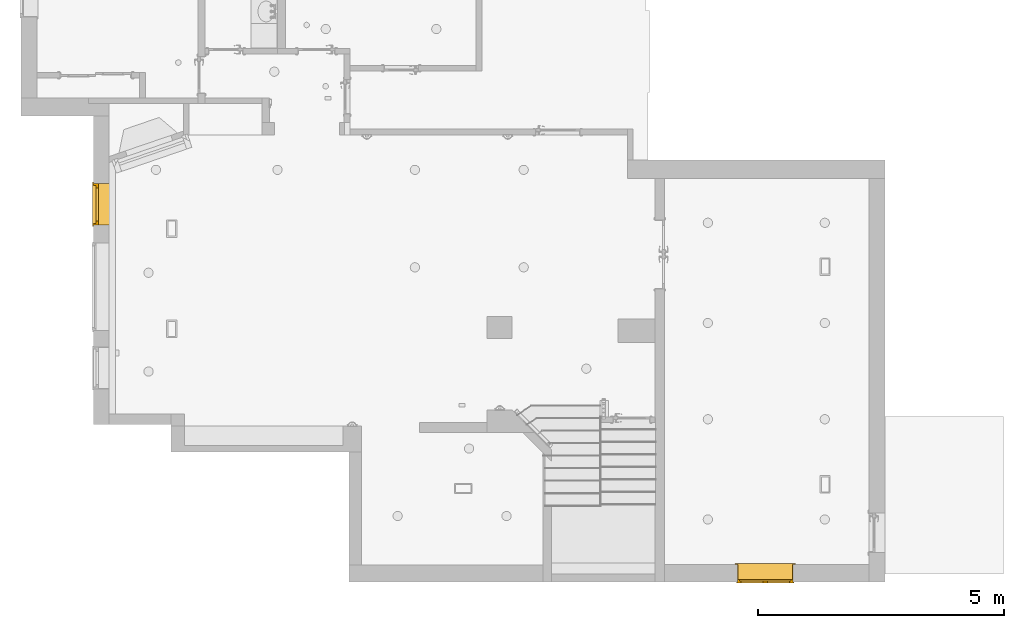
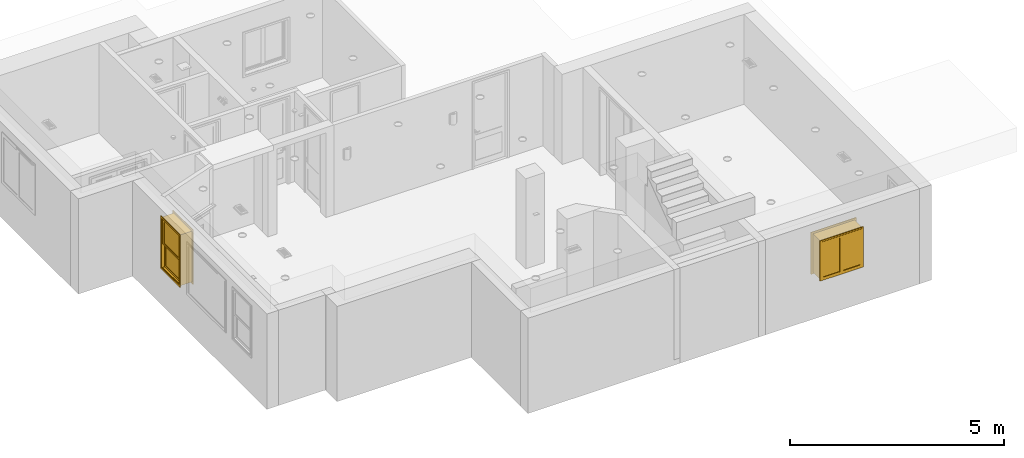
# One storey, part 11 of 24: 2 windows.
"""IFC2X3 building model written with IfcOpenShell, lengths in inches."""

from ifc_helpers import new_model, entity, si_unit, converted_unit, derived_unit, money_unit, direction, frame, origin_with_axes, place, context, subcontext, project, spatial, open_shell, faceted_brep, surface_model, type_object, element, save


model = new_model("IFC2X3")

# Units and contexts
model_context = context("Model", 3, precision=0.000393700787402, world=origin_with_axes(), true_north=direction((0.0, 1.0)))
body_context = subcontext(model_context, "Body", "Model", "MODEL_VIEW")
ifc_project = project(units=[converted_unit("LENGTHUNIT", "INCH", entity("IfcPositiveLengthMeasure", 0.0254), si_unit("LENGTHUNIT", "METRE"), dimensions=[1, 0, 0, 0, 0, 0, 0]), converted_unit("AREAUNIT", "SQUARE_FOOT", entity("IfcPositiveLengthMeasure", 0.09290304), si_unit("AREAUNIT", "SQUARE_METRE"), dimensions=[2, 0, 0, 0, 0, 0, 0]), si_unit("PLANEANGLEUNIT", "RADIAN"), si_unit("SOLIDANGLEUNIT", "STERADIAN"), money_unit("USD"), converted_unit("TIMEUNIT", "Year", entity("IfcTimeMeasure", 31556926.0), si_unit("TIMEUNIT", "SECOND"), dimensions=[0, 0, 1, 0, 0, 0, 0]), si_unit("MASSUNIT", "GRAM", prefix="KILO"), si_unit("THERMODYNAMICTEMPERATUREUNIT", "DEGREE_CELSIUS"), si_unit("LUMINOUSINTENSITYUNIT", "LUMEN"), si_unit("ENERGYUNIT", "JOULE", prefix="MEGA"), derived_unit("THERMALCONDUCTANCEUNIT", [(si_unit("POWERUNIT", "WATT"), 1), (si_unit("LENGTHUNIT", "METRE"), -1), (si_unit("THERMODYNAMICTEMPERATUREUNIT", "KELVIN"), -1)]), derived_unit("SPECIFICHEATCAPACITYUNIT", [(si_unit("ENERGYUNIT", "JOULE"), 1), (si_unit("MASSUNIT", "GRAM", prefix="KILO"), -1), (si_unit("THERMODYNAMICTEMPERATUREUNIT", "KELVIN"), -1)]), derived_unit("MASSDENSITYUNIT", [(si_unit("MASSUNIT", "GRAM", prefix="KILO"), 1), (si_unit("VOLUMEUNIT", "CUBIC_METRE"), -1)])], contexts=[model_context])

# Site, building, storey
site_placement = place(None, origin_with_axes())
site = spatial("IfcSite", under=ifc_project, at=site_placement, Name="Site", CompositionType="ELEMENT")
building_placement = place(site_placement, origin_with_axes())
building = spatial("IfcBuilding", under=site, at=building_placement, Name="Building", CompositionType="ELEMENT")
storey_placement = place(building_placement, origin_with_axes())
storey = spatial("IfcBuildingStorey", under=building, at=storey_placement, Name="First Floor", CompositionType="ELEMENT", Elevation=0.0)

# Windows
window_style_1 = type_object("IfcWindowStyle", Name="Double-Hung Window 25", ConstructionType="NOTDEFINED", OperationType="DOUBLE_PANEL_HORIZONTAL", ParameterTakesPrecedence=False, Sizeable=False)
window_1_placement = place(storey_placement, frame((290.433078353, 331.644674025, 36.0236220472), z_axis=(0.0, 0.0, 1.0), x_axis=(-9.94012117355e-06, -0.999999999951, 0.0)))
element("IfcWindow", 1, at=window_1_placement, inside=storey, type_object=window_style_1, Name="W-01", OverallHeight=57.0866, OverallWidth=33.4646, context=body_context, shape_type="SurfaceModel", body=[
    faceted_brep([(33.4645669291, -8.66141732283, 0.0), (0.0, -8.66141732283, 0.0), (0.0, 0.0, 0.0), (33.4645669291, 0.0, 0.0), (33.4645669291, -8.66141732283, 57.0866141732), (0.0, -8.66141732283, 57.0866141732), (33.2677165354, -8.66141732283, 0.196850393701), (0.196850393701, -8.66141732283, 0.196850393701), (0.196850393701, -8.66141732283, 56.8897637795), (33.2677165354, -8.66141732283, 56.8897637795), (0.0, 0.0, 57.0866141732), (33.4645669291, 0.0, 57.0866141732), (33.2677165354, 0.0, 0.196850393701), (33.2677165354, 0.0, 56.8897637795), (0.196850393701, 0.0, 56.8897637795), (0.196850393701, 0.0, 0.196850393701)], [[[0, 1, 2, 3]], [[0, 4, 5, 1], [6, 7, 8, 9]], [[1, 5, 10, 2]], [[3, 2, 10, 11], [12, 13, 14, 15]], [[4, 0, 3, 11]], [[5, 4, 11, 10]], [[7, 6, 12, 15]], [[8, 7, 15, 14]], [[9, 8, 14, 13]], [[6, 9, 13, 12]]]),
    faceted_brep([(35.4330708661, 0.787401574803, -1.96850393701), (35.4330708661, 0.0, -1.96850393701), (33.4645669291, 0.0, 0.0), (33.4645669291, 0.787401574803, 0.0), (35.4330708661, 0.787401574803, 59.0551181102), (35.4330708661, 0.0, 59.0551181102), (33.4645669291, 0.0, 57.0866141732), (33.4645669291, 0.787401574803, 57.0866141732)], [[[0, 1, 2, 3]], [[4, 5, 1, 0]], [[1, 5, 6, 2]], [[3, 2, 6, 7]], [[0, 3, 7, 4]], [[7, 6, 5, 4]]]),
    faceted_brep([(-1.96850393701, 0.787401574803, 59.0551181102), (-1.96850393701, 0.0, 59.0551181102), (0.0, 0.0, 57.0866141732), (0.0, 0.787401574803, 57.0866141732), (-1.96850393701, 0.787401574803, -1.96850393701), (-1.96850393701, 0.0, -1.96850393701), (0.0, 0.0, 0.0), (0.0, 0.787401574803, 0.0)], [[[0, 1, 2, 3]], [[4, 5, 1, 0]], [[1, 5, 6, 2]], [[3, 2, 6, 7]], [[0, 3, 7, 4]], [[7, 6, 5, 4]]]),
    faceted_brep([(-1.96850393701, 0.787401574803, -1.96850393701), (-1.96850393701, 0.0, -1.96850393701), (0.0, 0.0, 0.0), (0.0, 0.787401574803, 0.0), (35.4330708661, 0.787401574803, -1.96850393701), (35.4330708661, 0.0, -1.96850393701), (33.4645669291, 0.0, 0.0), (33.4645669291, 0.787401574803, 0.0)], [[[0, 1, 2, 3]], [[4, 5, 1, 0]], [[1, 5, 6, 2]], [[3, 2, 6, 7]], [[0, 3, 7, 4]], [[7, 6, 5, 4]]]),
    faceted_brep([(35.4330708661, 0.787401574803, 59.0551181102), (35.4330708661, 0.0, 59.0551181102), (33.4645669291, 0.0, 57.0866141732), (33.4645669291, 0.787401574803, 57.0866141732), (-1.96850393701, 0.787401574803, 59.0551181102), (-1.96850393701, 0.0, 59.0551181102), (0.0, 0.0, 57.0866141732), (0.0, 0.787401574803, 57.0866141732)], [[[0, 1, 2, 3]], [[4, 5, 1, 0]], [[1, 5, 6, 2]], [[3, 2, 6, 7]], [[0, 3, 7, 4]], [[7, 6, 5, 4]]]),
    faceted_brep([(34.4488188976, -13.3858267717, -0.984251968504), (32.4803149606, -13.3858267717, 0.984251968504), (32.4803149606, -12.5984251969, 0.984251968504), (34.4488188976, -12.5984251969, -0.984251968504), (34.4488188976, -13.3858267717, 58.0708661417), (32.4803149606, -13.3858267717, 56.1023622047), (32.4803149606, -12.5984251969, 56.1023622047), (34.4488188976, -12.5984251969, 58.0708661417)], [[[0, 1, 2, 3]], [[0, 4, 5, 1]], [[1, 5, 6, 2]], [[3, 2, 6, 7]], [[4, 0, 3, 7]], [[5, 4, 7, 6]]]),
    faceted_brep([(-0.984251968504, -13.3858267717, 58.0708661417), (0.984251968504, -13.3858267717, 56.1023622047), (0.984251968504, -12.5984251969, 56.1023622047), (-0.984251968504, -12.5984251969, 58.0708661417), (-0.984251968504, -13.3858267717, -0.984251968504), (0.984251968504, -13.3858267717, 0.984251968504), (0.984251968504, -12.5984251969, 0.984251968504), (-0.984251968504, -12.5984251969, -0.984251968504)], [[[0, 1, 2, 3]], [[0, 4, 5, 1]], [[1, 5, 6, 2]], [[3, 2, 6, 7]], [[4, 0, 3, 7]], [[5, 4, 7, 6]]]),
    faceted_brep([(-0.984251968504, -13.3858267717, -0.984251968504), (0.984251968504, -13.3858267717, 0.984251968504), (0.984251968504, -12.5984251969, 0.984251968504), (-0.984251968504, -12.5984251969, -0.984251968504), (34.4488188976, -13.3858267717, -0.984251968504), (32.4803149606, -13.3858267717, 0.984251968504), (32.4803149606, -12.5984251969, 0.984251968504), (34.4488188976, -12.5984251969, -0.984251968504)], [[[0, 1, 2, 3]], [[0, 4, 5, 1]], [[1, 5, 6, 2]], [[3, 2, 6, 7]], [[4, 0, 3, 7]], [[5, 4, 7, 6]]]),
    faceted_brep([(34.4488188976, -13.3858267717, 58.0708661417), (32.4803149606, -13.3858267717, 56.1023622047), (32.4803149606, -12.5984251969, 56.1023622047), (34.4488188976, -12.5984251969, 58.0708661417), (-0.984251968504, -13.3858267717, 58.0708661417), (0.984251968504, -13.3858267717, 56.1023622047), (0.984251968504, -12.5984251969, 56.1023622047), (-0.984251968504, -12.5984251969, 58.0708661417)], [[[0, 1, 2, 3]], [[0, 4, 5, 1]], [[1, 5, 6, 2]], [[3, 2, 6, 7]], [[4, 0, 3, 7]], [[5, 4, 7, 6]]]),
    faceted_brep([(31.8897637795, -12.5984251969, 55.5118110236), (33.4645669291, -12.5984251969, 55.5118110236), (33.4645669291, -8.66141732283, 55.5118110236), (31.8897637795, -8.66141732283, 55.5118110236), (31.8897637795, -12.5984251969, 1.57480314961), (33.4645669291, -12.5984251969, 1.57480314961), (33.4645669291, -8.66141732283, 1.57480314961), (31.8897637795, -8.66141732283, 1.57480314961)], [[[0, 1, 2, 3]], [[0, 4, 5, 1]], [[1, 5, 6, 2]], [[3, 2, 6, 7]], [[4, 0, 3, 7]], [[5, 4, 7, 6]]]),
    faceted_brep([(1.57480314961, -12.5984251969, 1.57480314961), (0.0, -12.5984251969, 1.57480314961), (0.0, -8.66141732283, 1.57480314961), (1.57480314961, -8.66141732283, 1.57480314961), (1.57480314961, -12.5984251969, 55.5118110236), (0.0, -12.5984251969, 55.5118110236), (0.0, -8.66141732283, 55.5118110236), (1.57480314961, -8.66141732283, 55.5118110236)], [[[0, 1, 2, 3]], [[0, 4, 5, 1]], [[1, 5, 6, 2]], [[3, 2, 6, 7]], [[4, 0, 3, 7]], [[5, 4, 7, 6]]]),
    faceted_brep([(31.8897637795, -12.5984251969, 1.57480314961), (33.4645669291, -12.5984251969, 1.57480314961), (33.4645669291, -8.66141732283, 1.57480314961), (31.8897637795, -8.66141732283, 1.57480314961), (1.57480314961, -12.5984251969, 1.57480314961), (0.0, -12.5984251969, 1.57480314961), (0.0, -12.5984251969, 0.0), (33.4645669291, -12.5984251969, 0.0), (33.4645669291, -8.66141732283, 0.0), (0.0, -8.66141732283, 0.0), (0.0, -8.66141732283, 1.57480314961), (1.57480314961, -8.66141732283, 1.57480314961)], [[[0, 1, 2, 3]], [[0, 4, 5, 6, 7, 1]], [[1, 7, 8, 2]], [[3, 2, 8, 9, 10, 11]], [[4, 0, 3, 11]], [[5, 4, 11, 10]], [[6, 5, 10, 9]], [[7, 6, 9, 8]]]),
    faceted_brep([(1.57480314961, -12.5984251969, 55.5118110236), (0.0, -12.5984251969, 55.5118110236), (0.0, -8.66141732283, 55.5118110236), (1.57480314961, -8.66141732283, 55.5118110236), (31.8897637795, -12.5984251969, 55.5118110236), (33.4645669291, -12.5984251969, 55.5118110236), (33.4645669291, -12.5984251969, 57.0866141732), (0.0, -12.5984251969, 57.0866141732), (0.0, -8.66141732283, 57.0866141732), (33.4645669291, -8.66141732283, 57.0866141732), (33.4645669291, -8.66141732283, 55.5118110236), (31.8897637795, -8.66141732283, 55.5118110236)], [[[0, 1, 2, 3]], [[0, 4, 5, 6, 7, 1]], [[1, 7, 8, 2]], [[3, 2, 8, 9, 10, 11]], [[4, 0, 3, 11]], [[5, 4, 11, 10]], [[6, 5, 10, 9]], [[7, 6, 9, 8]]]),
    faceted_brep([(29.9212598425, -10.6299212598, 27.5590551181), (31.8897637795, -10.6299212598, 27.5590551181), (31.8897637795, -8.66141732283, 27.5590551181), (29.9212598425, -8.66141732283, 27.5590551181), (29.9212598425, -10.6299212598, 3.54330708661), (31.8897637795, -10.6299212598, 3.54330708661), (31.8897637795, -8.66141732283, 3.54330708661), (29.9212598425, -8.66141732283, 3.54330708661)], [[[0, 1, 2, 3]], [[0, 4, 5, 1]], [[1, 5, 6, 2]], [[3, 2, 6, 7]], [[4, 0, 3, 7]], [[5, 4, 7, 6]]]),
    faceted_brep([(3.54330708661, -10.6299212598, 3.54330708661), (1.57480314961, -10.6299212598, 3.54330708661), (1.57480314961, -8.66141732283, 3.54330708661), (3.54330708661, -8.66141732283, 3.54330708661), (3.54330708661, -10.6299212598, 27.5590551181), (1.57480314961, -10.6299212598, 27.5590551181), (1.57480314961, -8.66141732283, 27.5590551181), (3.54330708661, -8.66141732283, 27.5590551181)], [[[0, 1, 2, 3]], [[0, 4, 5, 1]], [[1, 5, 6, 2]], [[3, 2, 6, 7]], [[4, 0, 3, 7]], [[5, 4, 7, 6]]]),
    faceted_brep([(1.57480314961, -10.6299212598, 1.57480314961), (1.57480314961, -10.6299212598, 3.54330708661), (1.57480314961, -8.66141732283, 3.54330708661), (1.57480314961, -8.66141732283, 1.57480314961), (31.8897637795, -10.6299212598, 1.57480314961), (31.8897637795, -10.6299212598, 3.54330708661), (29.9212598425, -10.6299212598, 3.54330708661), (3.54330708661, -10.6299212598, 3.54330708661), (3.54330708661, -8.66141732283, 3.54330708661), (29.9212598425, -8.66141732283, 3.54330708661), (31.8897637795, -8.66141732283, 3.54330708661), (31.8897637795, -8.66141732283, 1.57480314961)], [[[0, 1, 2, 3]], [[0, 4, 5, 6, 7, 1]], [[1, 7, 8, 2]], [[3, 2, 8, 9, 10, 11]], [[4, 0, 3, 11]], [[5, 4, 11, 10]], [[6, 5, 10, 9]], [[7, 6, 9, 8]]]),
    faceted_brep([(31.8897637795, -10.6299212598, 29.5275590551), (31.8897637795, -10.6299212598, 27.5590551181), (31.8897637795, -8.66141732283, 27.5590551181), (31.8897637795, -8.66141732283, 29.5275590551), (1.57480314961, -10.6299212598, 29.5275590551), (1.57480314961, -10.6299212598, 27.5590551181), (3.54330708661, -10.6299212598, 27.5590551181), (29.9212598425, -10.6299212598, 27.5590551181), (29.9212598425, -8.66141732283, 27.5590551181), (3.54330708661, -8.66141732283, 27.5590551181), (1.57480314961, -8.66141732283, 27.5590551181), (1.57480314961, -8.66141732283, 29.5275590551)], [[[0, 1, 2, 3]], [[0, 4, 5, 6, 7, 1]], [[1, 7, 8, 2]], [[3, 2, 8, 9, 10, 11]], [[4, 0, 3, 11]], [[5, 4, 11, 10]], [[6, 5, 10, 9]], [[7, 6, 9, 8]]]),
    surface_model("IfcShellBasedSurfaceModel", [(29.9212598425, -10.0393700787, 3.54330708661), (29.9212598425, -10.0393700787, 27.5590551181), (3.54330708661, -10.0393700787, 27.5590551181), (3.54330708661, -10.0393700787, 3.54330708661)], [open_shell([[[0, 1, 2, 3]]])]),
    surface_model("IfcShellBasedSurfaceModel", [(29.9212598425, -9.25196850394, 3.54330708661), (3.54330708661, -9.25196850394, 3.54330708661), (3.54330708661, -9.25196850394, 27.5590551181), (29.9212598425, -9.25196850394, 27.5590551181)], [open_shell([[[0, 1, 2, 3]]])]),
    faceted_brep([(29.9212598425, -12.5984251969, 53.5433070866), (31.8897637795, -12.5984251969, 53.5433070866), (31.8897637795, -10.6299212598, 53.5433070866), (29.9212598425, -10.6299212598, 53.5433070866), (29.9212598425, -12.5984251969, 29.5275590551), (31.8897637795, -12.5984251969, 29.5275590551), (31.8897637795, -10.6299212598, 29.5275590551), (29.9212598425, -10.6299212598, 29.5275590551)], [[[0, 1, 2, 3]], [[0, 4, 5, 1]], [[1, 5, 6, 2]], [[3, 2, 6, 7]], [[4, 0, 3, 7]], [[5, 4, 7, 6]]]),
    faceted_brep([(3.54330708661, -12.5984251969, 29.5275590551), (1.57480314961, -12.5984251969, 29.5275590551), (1.57480314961, -10.6299212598, 29.5275590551), (3.54330708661, -10.6299212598, 29.5275590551), (3.54330708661, -12.5984251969, 53.5433070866), (1.57480314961, -12.5984251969, 53.5433070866), (1.57480314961, -10.6299212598, 53.5433070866), (3.54330708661, -10.6299212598, 53.5433070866)], [[[0, 1, 2, 3]], [[0, 4, 5, 1]], [[1, 5, 6, 2]], [[3, 2, 6, 7]], [[4, 0, 3, 7]], [[5, 4, 7, 6]]]),
    faceted_brep([(1.57480314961, -12.5984251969, 27.5590551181), (1.57480314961, -12.5984251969, 29.5275590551), (1.57480314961, -10.6299212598, 29.5275590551), (1.57480314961, -10.6299212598, 27.5590551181), (31.8897637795, -12.5984251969, 27.5590551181), (31.8897637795, -12.5984251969, 29.5275590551), (29.9212598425, -12.5984251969, 29.5275590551), (3.54330708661, -12.5984251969, 29.5275590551), (3.54330708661, -10.6299212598, 29.5275590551), (29.9212598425, -10.6299212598, 29.5275590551), (31.8897637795, -10.6299212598, 29.5275590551), (31.8897637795, -10.6299212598, 27.5590551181)], [[[0, 1, 2, 3]], [[0, 4, 5, 6, 7, 1]], [[1, 7, 8, 2]], [[3, 2, 8, 9, 10, 11]], [[4, 0, 3, 11]], [[5, 4, 11, 10]], [[6, 5, 10, 9]], [[7, 6, 9, 8]]]),
    faceted_brep([(31.8897637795, -12.5984251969, 55.5118110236), (31.8897637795, -12.5984251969, 53.5433070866), (31.8897637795, -10.6299212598, 53.5433070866), (31.8897637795, -10.6299212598, 55.5118110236), (1.57480314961, -12.5984251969, 55.5118110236), (1.57480314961, -12.5984251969, 53.5433070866), (3.54330708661, -12.5984251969, 53.5433070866), (29.9212598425, -12.5984251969, 53.5433070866), (29.9212598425, -10.6299212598, 53.5433070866), (3.54330708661, -10.6299212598, 53.5433070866), (1.57480314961, -10.6299212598, 53.5433070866), (1.57480314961, -10.6299212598, 55.5118110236)], [[[0, 1, 2, 3]], [[0, 4, 5, 6, 7, 1]], [[1, 7, 8, 2]], [[3, 2, 8, 9, 10, 11]], [[4, 0, 3, 11]], [[5, 4, 11, 10]], [[6, 5, 10, 9]], [[7, 6, 9, 8]]]),
    surface_model("IfcShellBasedSurfaceModel", [(29.9212598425, -12.0078740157, 29.5275590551), (29.9212598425, -12.0078740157, 53.5433070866), (3.54330708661, -12.0078740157, 53.5433070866), (3.54330708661, -12.0078740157, 29.5275590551)], [open_shell([[[0, 1, 2, 3]]])]),
    surface_model("IfcShellBasedSurfaceModel", [(29.9212598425, -11.2204724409, 29.5275590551), (3.54330708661, -11.2204724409, 29.5275590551), (3.54330708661, -11.2204724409, 53.5433070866), (29.9212598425, -11.2204724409, 53.5433070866)], [open_shell([[[0, 1, 2, 3]]])]),
])
window_style_2 = type_object("IfcWindowStyle", Name="Double Sash Window 25", ConstructionType="NOTDEFINED", OperationType="DOUBLE_PANEL_VERTICAL", ParameterTakesPrecedence=False, Sizeable=False)
window_2_placement = place(storey_placement, frame((837.09841379, 26.8836162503, 35.6299212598), z_axis=(0.0, 0.0, 1.0), x_axis=(-0.999999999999, 1.08138594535e-06, 0.0)))
element("IfcWindow", 2, at=window_2_placement, inside=storey, type_object=window_style_2, Name="W-04", OverallHeight=43.1102, OverallWidth=44.0945, context=body_context, shape_type="SurfaceModel", body=[
    faceted_brep([(0.0, 12.0078740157, 0.0), (44.094488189, 12.0078740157, 0.0), (44.094488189, 0.0, 0.0), (0.0, 0.0, 0.0), (0.0, 12.0078740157, 43.1102362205), (44.094488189, 12.0078740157, 43.1102362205), (0.196850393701, 12.0078740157, 0.196850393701), (43.8976377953, 12.0078740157, 0.196850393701), (43.8976377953, 12.0078740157, 42.9133858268), (0.196850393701, 12.0078740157, 42.9133858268), (44.094488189, 0.0, 43.1102362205), (0.0, 0.0, 43.1102362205), (0.196850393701, 0.0, 0.196850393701), (0.196850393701, 0.0, 42.9133858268), (43.8976377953, 0.0, 42.9133858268), (43.8976377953, 0.0, 0.196850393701)], [[[0, 1, 2, 3]], [[0, 4, 5, 1], [6, 7, 8, 9]], [[1, 5, 10, 2]], [[3, 2, 10, 11], [12, 13, 14, 15]], [[4, 0, 3, 11]], [[5, 4, 11, 10]], [[7, 6, 12, 15]], [[8, 7, 15, 14]], [[9, 8, 14, 13]], [[6, 9, 13, 12]]]),
    faceted_brep([(-1.96850393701, -0.787401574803, -1.96850393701), (-1.96850393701, 0.0, -1.96850393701), (0.0, 0.0, 0.0), (0.0, -0.787401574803, 0.0), (-1.96850393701, -0.787401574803, 45.0787401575), (-1.96850393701, 0.0, 45.0787401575), (0.0, 0.0, 43.1102362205), (0.0, -0.787401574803, 43.1102362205)], [[[0, 1, 2, 3]], [[4, 5, 1, 0]], [[1, 5, 6, 2]], [[3, 2, 6, 7]], [[0, 3, 7, 4]], [[7, 6, 5, 4]]]),
    faceted_brep([(46.062992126, -0.787401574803, 45.0787401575), (46.062992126, 0.0, 45.0787401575), (44.094488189, 0.0, 43.1102362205), (44.094488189, -0.787401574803, 43.1102362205), (46.062992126, -0.787401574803, -1.96850393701), (46.062992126, 0.0, -1.96850393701), (44.094488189, 0.0, 0.0), (44.094488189, -0.787401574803, 0.0)], [[[0, 1, 2, 3]], [[4, 5, 1, 0]], [[1, 5, 6, 2]], [[3, 2, 6, 7]], [[0, 3, 7, 4]], [[7, 6, 5, 4]]]),
    faceted_brep([(46.062992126, -0.787401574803, -1.96850393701), (46.062992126, 0.0, -1.96850393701), (44.094488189, 0.0, 0.0), (44.094488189, -0.787401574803, 0.0), (-1.96850393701, -0.787401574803, -1.96850393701), (-1.96850393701, 0.0, -1.96850393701), (0.0, 0.0, 0.0), (0.0, -0.787401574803, 0.0)], [[[0, 1, 2, 3]], [[4, 5, 1, 0]], [[1, 5, 6, 2]], [[3, 2, 6, 7]], [[0, 3, 7, 4]], [[7, 6, 5, 4]]]),
    faceted_brep([(-1.96850393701, -0.787401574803, 45.0787401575), (-1.96850393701, 0.0, 45.0787401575), (0.0, 0.0, 43.1102362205), (0.0, -0.787401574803, 43.1102362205), (46.062992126, -0.787401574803, 45.0787401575), (46.062992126, 0.0, 45.0787401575), (44.094488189, 0.0, 43.1102362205), (44.094488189, -0.787401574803, 43.1102362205)], [[[0, 1, 2, 3]], [[4, 5, 1, 0]], [[1, 5, 6, 2]], [[3, 2, 6, 7]], [[0, 3, 7, 4]], [[7, 6, 5, 4]]]),
    faceted_brep([(-0.984251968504, 14.7637795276, -0.984251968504), (0.984251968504, 14.7637795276, 0.984251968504), (0.984251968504, 13.9763779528, 0.984251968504), (-0.984251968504, 13.9763779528, -0.984251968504), (-0.984251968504, 14.7637795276, 44.094488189), (0.984251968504, 14.7637795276, 42.125984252), (0.984251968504, 13.9763779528, 42.125984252), (-0.984251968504, 13.9763779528, 44.094488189)], [[[0, 1, 2, 3]], [[0, 4, 5, 1]], [[1, 5, 6, 2]], [[3, 2, 6, 7]], [[4, 0, 3, 7]], [[5, 4, 7, 6]]]),
    faceted_brep([(45.0787401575, 14.7637795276, 44.094488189), (43.1102362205, 14.7637795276, 42.125984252), (43.1102362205, 13.9763779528, 42.125984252), (45.0787401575, 13.9763779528, 44.094488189), (45.0787401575, 14.7637795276, -0.984251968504), (43.1102362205, 14.7637795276, 0.984251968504), (43.1102362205, 13.9763779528, 0.984251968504), (45.0787401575, 13.9763779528, -0.984251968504)], [[[0, 1, 2, 3]], [[0, 4, 5, 1]], [[1, 5, 6, 2]], [[3, 2, 6, 7]], [[4, 0, 3, 7]], [[5, 4, 7, 6]]]),
    faceted_brep([(45.0787401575, 14.7637795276, -0.984251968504), (43.1102362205, 14.7637795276, 0.984251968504), (43.1102362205, 13.9763779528, 0.984251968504), (45.0787401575, 13.9763779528, -0.984251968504), (-0.984251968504, 14.7637795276, -0.984251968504), (0.984251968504, 14.7637795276, 0.984251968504), (0.984251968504, 13.9763779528, 0.984251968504), (-0.984251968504, 13.9763779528, -0.984251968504)], [[[0, 1, 2, 3]], [[0, 4, 5, 1]], [[1, 5, 6, 2]], [[3, 2, 6, 7]], [[4, 0, 3, 7]], [[5, 4, 7, 6]]]),
    faceted_brep([(-0.984251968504, 14.7637795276, 44.094488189), (0.984251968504, 14.7637795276, 42.125984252), (0.984251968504, 13.9763779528, 42.125984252), (-0.984251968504, 13.9763779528, 44.094488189), (45.0787401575, 14.7637795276, 44.094488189), (43.1102362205, 14.7637795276, 42.125984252), (43.1102362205, 13.9763779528, 42.125984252), (45.0787401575, 13.9763779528, 44.094488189)], [[[0, 1, 2, 3]], [[0, 4, 5, 1]], [[1, 5, 6, 2]], [[3, 2, 6, 7]], [[4, 0, 3, 7]], [[5, 4, 7, 6]]]),
    faceted_brep([(0.590551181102, 13.9763779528, 41.5354330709), (0.0, 13.9763779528, 41.5354330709), (0.0, 12.0078740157, 41.5354330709), (1.57480314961, 12.0078740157, 41.5354330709), (1.57480314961, 12.9921259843, 41.5354330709), (0.590551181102, 12.9921259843, 41.5354330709), (0.590551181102, 13.9763779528, 1.57480314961), (0.0, 13.9763779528, 1.57480314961), (0.0, 12.0078740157, 1.57480314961), (1.57480314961, 12.0078740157, 1.57480314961), (1.57480314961, 12.9921259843, 1.57480314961), (0.590551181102, 12.9921259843, 1.57480314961)], [[[0, 1, 2, 3, 4, 5]], [[6, 7, 1, 0]], [[1, 7, 8, 2]], [[2, 8, 9, 3]], [[4, 3, 9, 10]], [[10, 11, 5, 4]], [[5, 11, 6, 0]], [[11, 10, 9, 8, 7, 6]]]),
    faceted_brep([(42.5196850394, 12.9921259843, 41.5354330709), (42.5196850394, 12.0078740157, 41.5354330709), (44.094488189, 12.0078740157, 41.5354330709), (44.094488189, 13.9763779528, 41.5354330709), (43.5039370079, 13.9763779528, 41.5354330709), (43.5039370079, 12.9921259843, 41.5354330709), (42.5196850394, 12.9921259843, 1.57480314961), (42.5196850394, 12.0078740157, 1.57480314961), (44.094488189, 12.0078740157, 1.57480314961), (44.094488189, 13.9763779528, 1.57480314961), (43.5039370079, 13.9763779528, 1.57480314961), (43.5039370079, 12.9921259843, 1.57480314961)], [[[0, 1, 2, 3, 4, 5]], [[6, 7, 1, 0]], [[8, 2, 1, 7]], [[9, 3, 2, 8]], [[4, 3, 9, 10]], [[10, 11, 5, 4]], [[5, 11, 6, 0]], [[11, 10, 9, 8, 7, 6]]]),
    faceted_brep([(42.5196850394, 12.9921259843, 1.57480314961), (42.5196850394, 12.0078740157, 1.57480314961), (44.094488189, 12.0078740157, 1.57480314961), (44.094488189, 13.9763779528, 1.57480314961), (43.5039370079, 13.9763779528, 1.57480314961), (43.5039370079, 12.9921259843, 1.57480314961), (1.57480314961, 12.9921259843, 1.57480314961), (1.57480314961, 12.0078740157, 1.57480314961), (0.0, 12.0078740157, 1.57480314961), (0.0, 12.0078740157, 0.0), (44.094488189, 12.0078740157, 0.0), (44.094488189, 13.9763779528, 0.0), (0.590551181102, 13.9763779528, 0.590551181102), (43.5039370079, 13.9763779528, 0.590551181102), (0.0, 13.9763779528, 0.0), (0.0, 13.9763779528, 1.57480314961), (0.590551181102, 13.9763779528, 1.57480314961), (43.5039370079, 12.9921259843, 0.590551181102), (0.590551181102, 12.9921259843, 0.590551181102), (0.590551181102, 12.9921259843, 1.57480314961)], [[[0, 1, 2, 3, 4, 5]], [[6, 7, 1, 0]], [[8, 9, 10, 2, 1, 7]], [[11, 3, 2, 10]], [[12, 13, 4, 3, 11, 14, 15, 16]], [[13, 17, 5, 4]], [[5, 17, 18, 19, 6, 0]], [[19, 16, 15, 8, 7, 6]], [[15, 14, 9, 8]], [[14, 11, 10, 9]], [[12, 18, 17, 13]], [[19, 18, 12, 16]]]),
    faceted_brep([(0.590551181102, 13.9763779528, 41.5354330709), (0.0, 13.9763779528, 41.5354330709), (0.0, 13.9763779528, 43.1102362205), (44.094488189, 13.9763779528, 43.1102362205), (44.094488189, 13.9763779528, 41.5354330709), (43.5039370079, 13.9763779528, 41.5354330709), (43.5039370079, 13.9763779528, 42.5196850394), (0.590551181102, 13.9763779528, 42.5196850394), (0.590551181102, 12.9921259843, 41.5354330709), (1.57480314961, 12.9921259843, 41.5354330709), (1.57480314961, 12.0078740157, 41.5354330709), (0.0, 12.0078740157, 41.5354330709), (0.0, 12.0078740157, 43.1102362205), (44.094488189, 12.0078740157, 43.1102362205), (44.094488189, 12.0078740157, 41.5354330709), (43.5039370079, 12.9921259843, 41.5354330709), (42.5196850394, 12.0078740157, 41.5354330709), (42.5196850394, 12.9921259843, 41.5354330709), (43.5039370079, 12.9921259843, 42.5196850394), (0.590551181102, 12.9921259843, 42.5196850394)], [[[0, 1, 2, 3, 4, 5, 6, 7]], [[8, 9, 10, 11, 1, 0]], [[2, 1, 11, 12]], [[3, 2, 12, 13]], [[4, 3, 13, 14]], [[15, 5, 4, 14, 16, 17]], [[5, 15, 18, 6]], [[6, 18, 19, 7]], [[7, 19, 8, 0]], [[17, 9, 8, 19, 18, 15]], [[17, 16, 10, 9]], [[14, 13, 12, 11, 10, 16]]]),
    faceted_brep([(2.55905511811, 12.9921259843, 40.5511811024), (2.55905511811, 14.9606299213, 40.5511811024), (0.590551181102, 14.9606299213, 40.5511811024), (0.590551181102, 12.9921259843, 40.5511811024), (2.55905511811, 12.9921259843, 2.55905511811), (2.55905511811, 14.9606299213, 2.55905511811), (0.590551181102, 14.9606299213, 2.55905511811), (0.590551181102, 12.9921259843, 2.55905511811)], [[[0, 1, 2, 3]], [[4, 5, 1, 0]], [[1, 5, 6, 2]], [[3, 2, 6, 7]], [[0, 3, 7, 4]], [[7, 6, 5, 4]]]),
    faceted_brep([(20.0787401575, 12.9921259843, 2.55905511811), (20.0787401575, 14.9606299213, 2.55905511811), (22.0472440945, 14.9606299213, 2.55905511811), (22.0472440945, 12.9921259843, 2.55905511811), (20.0787401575, 12.9921259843, 40.5511811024), (20.0787401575, 14.9606299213, 40.5511811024), (22.0472440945, 14.9606299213, 40.5511811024), (22.0472440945, 12.9921259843, 40.5511811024)], [[[0, 1, 2, 3]], [[4, 5, 1, 0]], [[1, 5, 6, 2]], [[3, 2, 6, 7]], [[0, 3, 7, 4]], [[7, 6, 5, 4]]]),
    faceted_brep([(22.0472440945, 12.9921259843, 0.590551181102), (22.0472440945, 14.9606299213, 0.590551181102), (22.0472440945, 14.9606299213, 2.55905511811), (22.0472440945, 12.9921259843, 2.55905511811), (0.590551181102, 12.9921259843, 0.590551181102), (0.590551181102, 14.9606299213, 0.590551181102), (0.590551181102, 14.9606299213, 2.55905511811), (2.55905511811, 14.9606299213, 2.55905511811), (20.0787401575, 14.9606299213, 2.55905511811), (20.0787401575, 12.9921259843, 2.55905511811), (2.55905511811, 12.9921259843, 2.55905511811), (0.590551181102, 12.9921259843, 2.55905511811)], [[[0, 1, 2, 3]], [[4, 5, 1, 0]], [[1, 5, 6, 7, 8, 2]], [[3, 2, 8, 9]], [[0, 3, 9, 10, 11, 4]], [[11, 6, 5, 4]], [[10, 7, 6, 11]], [[9, 8, 7, 10]]]),
    faceted_brep([(0.590551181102, 12.9921259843, 42.5196850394), (0.590551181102, 14.9606299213, 42.5196850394), (0.590551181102, 14.9606299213, 40.5511811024), (0.590551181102, 12.9921259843, 40.5511811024), (22.0472440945, 12.9921259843, 42.5196850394), (22.0472440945, 14.9606299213, 42.5196850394), (22.0472440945, 14.9606299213, 40.5511811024), (20.0787401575, 14.9606299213, 40.5511811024), (2.55905511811, 14.9606299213, 40.5511811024), (2.55905511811, 12.9921259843, 40.5511811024), (20.0787401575, 12.9921259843, 40.5511811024), (22.0472440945, 12.9921259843, 40.5511811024)], [[[0, 1, 2, 3]], [[4, 5, 1, 0]], [[1, 5, 6, 7, 8, 2]], [[3, 2, 8, 9]], [[0, 3, 9, 10, 11, 4]], [[11, 6, 5, 4]], [[10, 7, 6, 11]], [[9, 8, 7, 10]]]),
    surface_model("IfcShellBasedSurfaceModel", [(2.55905511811, 13.5826771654, 2.55905511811), (20.0787401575, 13.5826771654, 2.55905511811), (20.0787401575, 13.5826771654, 40.5511811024), (2.55905511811, 13.5826771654, 40.5511811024)], [open_shell([[[0, 1, 2, 3]]])]),
    surface_model("IfcShellBasedSurfaceModel", [(2.55905511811, 14.3700787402, 2.55905511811), (2.55905511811, 14.3700787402, 40.5511811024), (20.0787401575, 14.3700787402, 40.5511811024), (20.0787401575, 14.3700787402, 2.55905511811)], [open_shell([[[0, 1, 2, 3]]])]),
    faceted_brep([(24.0157480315, 12.9921259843, 40.5511811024), (24.0157480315, 14.9606299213, 40.5511811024), (22.0472440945, 14.9606299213, 40.5511811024), (22.0472440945, 12.9921259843, 40.5511811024), (24.0157480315, 12.9921259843, 2.55905511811), (24.0157480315, 14.9606299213, 2.55905511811), (22.0472440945, 14.9606299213, 2.55905511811), (22.0472440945, 12.9921259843, 2.55905511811)], [[[0, 1, 2, 3]], [[4, 5, 1, 0]], [[1, 5, 6, 2]], [[3, 2, 6, 7]], [[0, 3, 7, 4]], [[7, 6, 5, 4]]]),
    faceted_brep([(41.5354330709, 12.9921259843, 2.55905511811), (41.5354330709, 14.9606299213, 2.55905511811), (43.5039370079, 14.9606299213, 2.55905511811), (43.5039370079, 12.9921259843, 2.55905511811), (41.5354330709, 12.9921259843, 40.5511811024), (41.5354330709, 14.9606299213, 40.5511811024), (43.5039370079, 14.9606299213, 40.5511811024), (43.5039370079, 12.9921259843, 40.5511811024)], [[[0, 1, 2, 3]], [[4, 5, 1, 0]], [[1, 5, 6, 2]], [[3, 2, 6, 7]], [[0, 3, 7, 4]], [[7, 6, 5, 4]]]),
    faceted_brep([(43.5039370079, 12.9921259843, 0.590551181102), (43.5039370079, 14.9606299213, 0.590551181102), (43.5039370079, 14.9606299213, 2.55905511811), (43.5039370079, 12.9921259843, 2.55905511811), (22.0472440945, 12.9921259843, 0.590551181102), (22.0472440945, 14.9606299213, 0.590551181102), (22.0472440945, 14.9606299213, 2.55905511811), (24.0157480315, 14.9606299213, 2.55905511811), (41.5354330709, 14.9606299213, 2.55905511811), (41.5354330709, 12.9921259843, 2.55905511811), (24.0157480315, 12.9921259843, 2.55905511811), (22.0472440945, 12.9921259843, 2.55905511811)], [[[0, 1, 2, 3]], [[4, 5, 1, 0]], [[1, 5, 6, 7, 8, 2]], [[3, 2, 8, 9]], [[0, 3, 9, 10, 11, 4]], [[11, 6, 5, 4]], [[10, 7, 6, 11]], [[9, 8, 7, 10]]]),
    faceted_brep([(22.0472440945, 12.9921259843, 42.5196850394), (22.0472440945, 14.9606299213, 42.5196850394), (22.0472440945, 14.9606299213, 40.5511811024), (22.0472440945, 12.9921259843, 40.5511811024), (43.5039370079, 12.9921259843, 42.5196850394), (43.5039370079, 14.9606299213, 42.5196850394), (43.5039370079, 14.9606299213, 40.5511811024), (41.5354330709, 14.9606299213, 40.5511811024), (24.0157480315, 14.9606299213, 40.5511811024), (24.0157480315, 12.9921259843, 40.5511811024), (41.5354330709, 12.9921259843, 40.5511811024), (43.5039370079, 12.9921259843, 40.5511811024)], [[[0, 1, 2, 3]], [[4, 5, 1, 0]], [[1, 5, 6, 7, 8, 2]], [[3, 2, 8, 9]], [[0, 3, 9, 10, 11, 4]], [[11, 6, 5, 4]], [[10, 7, 6, 11]], [[9, 8, 7, 10]]]),
    surface_model("IfcShellBasedSurfaceModel", [(24.0157480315, 13.5826771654, 2.55905511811), (41.5354330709, 13.5826771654, 2.55905511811), (41.5354330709, 13.5826771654, 40.5511811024), (24.0157480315, 13.5826771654, 40.5511811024)], [open_shell([[[0, 1, 2, 3]]])]),
    surface_model("IfcShellBasedSurfaceModel", [(24.0157480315, 14.3700787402, 2.55905511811), (24.0157480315, 14.3700787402, 40.5511811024), (41.5354330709, 14.3700787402, 40.5511811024), (41.5354330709, 14.3700787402, 2.55905511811)], [open_shell([[[0, 1, 2, 3]]])]),
])

save(model, "model.ifc")
